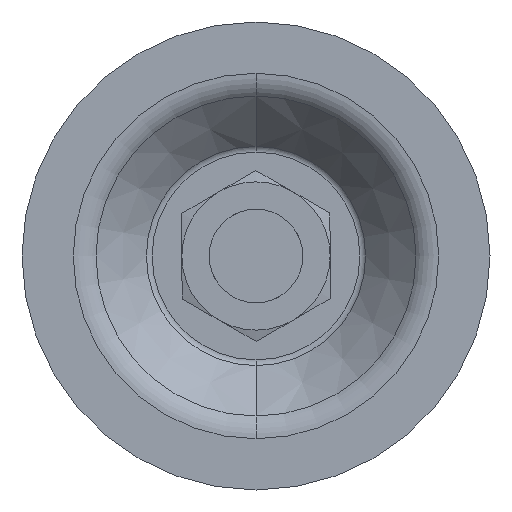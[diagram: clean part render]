
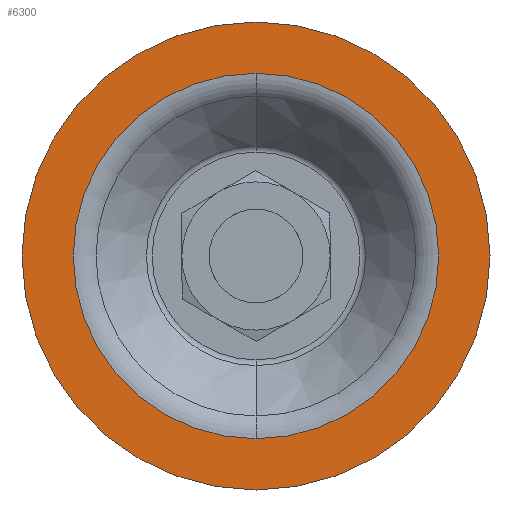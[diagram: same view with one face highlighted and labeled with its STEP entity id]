
A CAD part, front view. The second image highlights one B-rep face of the part: STEP entity #6300.
In plain terms, the highlighted planar face has unit normal (0, -1, 0).
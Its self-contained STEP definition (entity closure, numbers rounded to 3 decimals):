
#163 = ORIENTED_EDGE ( 'NONE', *, *, #782, .T. ) ;
#166 = DIRECTION ( 'NONE',  ( 0., 0., 1. ) ) ;
#496 = VERTEX_POINT ( 'NONE', #5131 ) ;
#782 = EDGE_CURVE ( 'NONE', #2708, #496, #7417, .T. ) ;
#813 = CARTESIAN_POINT ( 'NONE',  ( 0., 0., -30. ) ) ;
#1306 = VERTEX_POINT ( 'NONE', #5427 ) ;
#1609 = ORIENTED_EDGE ( 'NONE', *, *, #3830, .T. ) ;
#1737 = FACE_OUTER_BOUND ( 'NONE', #6443, .T. ) ;
#2190 = CARTESIAN_POINT ( 'NONE',  ( 0., 0., 0. ) ) ;
#2309 = PLANE ( 'NONE',  #6493 ) ;
#2398 = ORIENTED_EDGE ( 'NONE', *, *, #2778, .F. ) ;
#2640 = EDGE_CURVE ( 'NONE', #1306, #4948, #7123, .T. ) ;
#2701 = AXIS2_PLACEMENT_3D ( 'NONE', #2190, #4020, #2824 ) ;
#2704 = DIRECTION ( 'NONE',  ( 0., 1., 0. ) ) ;
#2708 = VERTEX_POINT ( 'NONE', #3418 ) ;
#2740 = AXIS2_PLACEMENT_3D ( 'NONE', #6368, #2704, #166 ) ;
#2778 = EDGE_CURVE ( 'NONE', #4948, #1306, #3806, .T. ) ;
#2824 = DIRECTION ( 'NONE',  ( 0., 0., 1. ) ) ;
#2957 = FACE_BOUND ( 'NONE', #6243, .T. ) ;
#3418 = CARTESIAN_POINT ( 'NONE',  ( 0., 0., -23.434 ) ) ;
#3806 = CIRCLE ( 'NONE', #6864, 30. ) ;
#3830 = EDGE_CURVE ( 'NONE', #496, #2708, #6733, .T. ) ;
#4020 = DIRECTION ( 'NONE',  ( 0., 1., 0. ) ) ;
#4611 = DIRECTION ( 'NONE',  ( 0., 0., 1. ) ) ;
#4839 = DIRECTION ( 'NONE',  ( 0., 1., 0. ) ) ;
#4892 = DIRECTION ( 'NONE',  ( 0., 0., 1. ) ) ;
#4948 = VERTEX_POINT ( 'NONE', #813 ) ;
#5131 = CARTESIAN_POINT ( 'NONE',  ( 0., 0., 23.434 ) ) ;
#5334 = DIRECTION ( 'NONE',  ( 0., 1., 0. ) ) ;
#5427 = CARTESIAN_POINT ( 'NONE',  ( 0., 0., 30. ) ) ;
#5533 = AXIS2_PLACEMENT_3D ( 'NONE', #6679, #4839, #4892 ) ;
#5957 = ORIENTED_EDGE ( 'NONE', *, *, #2640, .F. ) ;
#6243 = EDGE_LOOP ( 'NONE', ( #1609, #163 ) ) ;
#6300 = ADVANCED_FACE ( 'NONE', ( #1737, #2957 ), #2309, .F. ) ;
#6368 = CARTESIAN_POINT ( 'NONE',  ( 0., 0., 0. ) ) ;
#6443 = EDGE_LOOP ( 'NONE', ( #5957, #2398 ) ) ;
#6493 = AXIS2_PLACEMENT_3D ( 'NONE', #7195, #5334, #4611 ) ;
#6533 = DIRECTION ( 'NONE',  ( 0., 0., 1. ) ) ;
#6679 = CARTESIAN_POINT ( 'NONE',  ( 0., 0., 0. ) ) ;
#6733 = CIRCLE ( 'NONE', #2701, 23.434 ) ;
#6864 = AXIS2_PLACEMENT_3D ( 'NONE', #7164, #7792, #6533 ) ;
#7123 = CIRCLE ( 'NONE', #2740, 30. ) ;
#7164 = CARTESIAN_POINT ( 'NONE',  ( 0., 0., 0. ) ) ;
#7195 = CARTESIAN_POINT ( 'NONE',  ( 30., 0., 0. ) ) ;
#7417 = CIRCLE ( 'NONE', #5533, 23.434 ) ;
#7792 = DIRECTION ( 'NONE',  ( 0., 1., 0. ) ) ;
